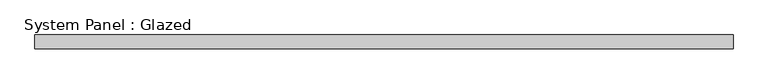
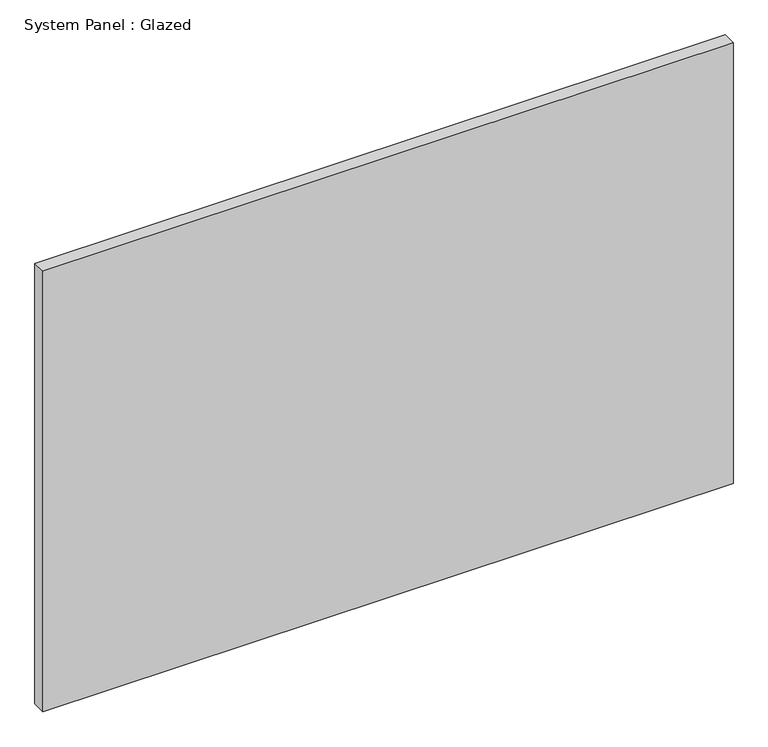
"""IFC4 building model written with IfcOpenShell, lengths in millimetres: plate geometry, System Panel : Glazed."""

from ifc_helpers import new_model, si_unit, origin, origin_with_axes, place, context, project, spatial, polyline, outline, extrude, source, transform, mapped, element, save


def system_panel_glazed_6c143bdf(model_context):
    return source(origin(), model_context, "Body", "SweptSolid", [
        extrude(outline(polyline([(713.25, -14.0), (-713.25, -14.0), (-713.25, 14.0), (713.25, 14.0), (713.25, -14.0)])), origin_with_axes(), (0.0, 0.0, 1.0), 963.0),
    ])


if __name__ == "__main__":
    model = new_model("IFC4")
    model_context = context("Model", 3, world=origin())
    ifc_project = project(units=[si_unit("LENGTHUNIT", "METRE", prefix="MILLI")], contexts=[model_context])
    site = spatial("IfcSite", under=ifc_project)
    building = spatial("IfcBuilding", under=site)
    placement = place(None, origin())
    system_panel_glazed_shape = system_panel_glazed_6c143bdf(model_context)
    element("IfcPlate", 1, ObjectType="System Panel : Glazed", at=placement, inside=building, context=model_context, shape_type="MappedRepresentation", body=[
        mapped(system_panel_glazed_shape, transform((0.0, 0.0, 0.0), x_axis=(1.0, 0.0, 0.0), y_axis=(0.0, 1.0, 0.0), z_axis=(0.0, 0.0, 1.0))),
    ])
    save(model, "model.ifc")
